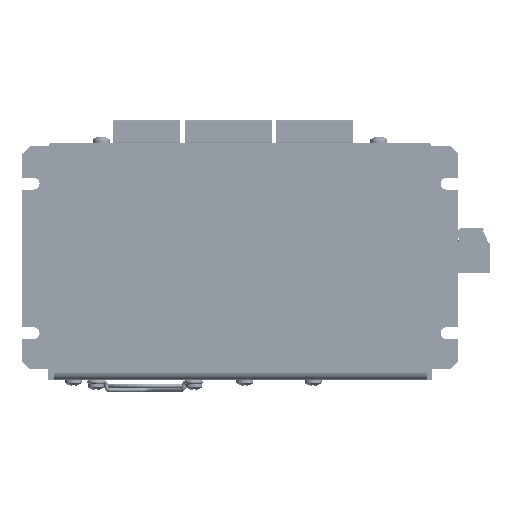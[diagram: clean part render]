
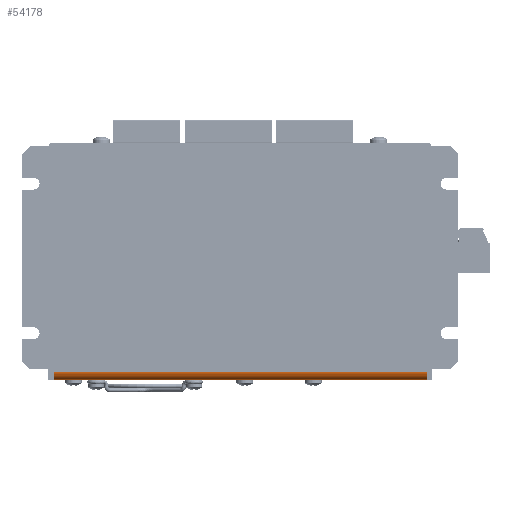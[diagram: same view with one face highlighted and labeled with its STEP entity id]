
A CAD part, front view. The second image highlights one B-rep face of the part: STEP entity #54178.
In plain terms, the highlighted cylindrical face has radius 3.429 mm (diameter 6.858 mm), a partial arc.
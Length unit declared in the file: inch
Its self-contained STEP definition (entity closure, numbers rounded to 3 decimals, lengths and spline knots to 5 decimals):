
#54178 = ADVANCED_FACE ( 'NONE', ( #294847 ), #295236, .T. ) ;
#89940 = EDGE_CURVE ( 'NONE', #1069682, #1069800, #952992, .T. ) ;
#229970 = AXIS2_PLACEMENT_3D ( 'NONE', #295249, #295375, #295381 ) ;
#294847 = FACE_OUTER_BOUND ( 'NONE', #1151441, .T. ) ;
#295236 = CYLINDRICAL_SURFACE ( 'NONE', #229970, 0.135 ) ;
#295249 = CARTESIAN_POINT ( 'NONE',  ( 7., 0.135, 0.135 ) ) ;
#295375 = DIRECTION ( 'NONE',  ( -1., 0., 0. ) ) ;
#295381 = DIRECTION ( 'NONE',  ( 0., 0., 1. ) ) ;
#359302 = EDGE_CURVE ( 'NONE', #1069800, #1071650, #634189, .T. ) ;
#361960 = EDGE_CURVE ( 'NONE', #1072205, #1071650, #951539, .T. ) ;
#362218 = EDGE_CURVE ( 'NONE', #1072205, #1069682, #908159, .T. ) ;
#594279 = ORIENTED_EDGE ( 'NONE', *, *, #359302, .F. ) ;
#594303 = ORIENTED_EDGE ( 'NONE', *, *, #89940, .F. ) ;
#594328 = ORIENTED_EDGE ( 'NONE', *, *, #362218, .F. ) ;
#594346 = ORIENTED_EDGE ( 'NONE', *, *, #361960, .T. ) ;
#634177 = AXIS2_PLACEMENT_3D ( 'NONE', #715229, #715236, #715242 ) ;
#634189 = CIRCLE ( 'NONE', #634177, 0.135 ) ;
#715229 = CARTESIAN_POINT ( 'NONE',  ( 0.507, 0.135, 0.135 ) ) ;
#715236 = DIRECTION ( 'NONE',  ( -1., 0., 0. ) ) ;
#715242 = DIRECTION ( 'NONE',  ( 0., 0., -1. ) ) ;
#907219 = VECTOR ( 'NONE', #951564, 39.37008 ) ;
#908139 = AXIS2_PLACEMENT_3D ( 'NONE', #953716, #953722, #953730 ) ;
#908159 = CIRCLE ( 'NONE', #908139, 0.135 ) ;
#919727 = VECTOR ( 'NONE', #953008, 39.37008 ) ;
#951258 = CARTESIAN_POINT ( 'NONE',  ( 7., 0., 0.135 ) ) ;
#951539 = LINE ( 'NONE', #951258, #907219 ) ;
#951564 = DIRECTION ( 'NONE',  ( -1., 0., 0. ) ) ;
#952870 = CARTESIAN_POINT ( 'NONE',  ( 7., 0.135, 0. ) ) ;
#952992 = LINE ( 'NONE', #952870, #919727 ) ;
#953008 = DIRECTION ( 'NONE',  ( -1., 0., 0. ) ) ;
#953716 = CARTESIAN_POINT ( 'NONE',  ( 6.493, 0.135, 0.135 ) ) ;
#953722 = DIRECTION ( 'NONE',  ( 1., 0., 0. ) ) ;
#953730 = DIRECTION ( 'NONE',  ( 0., 0., 1. ) ) ;
#1069682 = VERTEX_POINT ( 'NONE', #1091374 ) ;
#1069800 = VERTEX_POINT ( 'NONE', #1091543 ) ;
#1071650 = VERTEX_POINT ( 'NONE', #1092844 ) ;
#1072205 = VERTEX_POINT ( 'NONE', #1093217 ) ;
#1091374 = CARTESIAN_POINT ( 'NONE',  ( 6.493, 0.135, 0. ) ) ;
#1091543 = CARTESIAN_POINT ( 'NONE',  ( 0.507, 0.135, 0. ) ) ;
#1092844 = CARTESIAN_POINT ( 'NONE',  ( 0.507, 0., 0.135 ) ) ;
#1093217 = CARTESIAN_POINT ( 'NONE',  ( 6.493, 0., 0.135 ) ) ;
#1151441 = EDGE_LOOP ( 'NONE', ( #594279, #594303, #594328, #594346 ) ) ;
